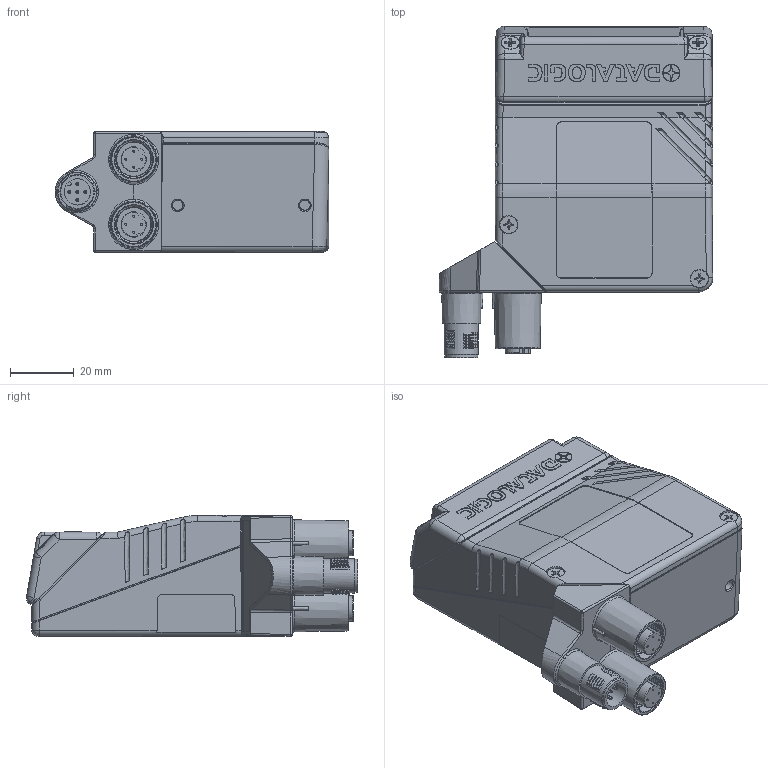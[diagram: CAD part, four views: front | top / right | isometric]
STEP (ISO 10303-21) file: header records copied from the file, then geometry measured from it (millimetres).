
FILE_DESCRIPTION(/* description */ (''),/* implementation_level */ '2;1');
FILE_NAME(/* name */ 'DSD0600.stp',/* time_stamp */ '2014-05-19T15:33:28+02:00',/* author */ (''),/* organization */ (''),/* preprocessor_version */ 'ST-DEVELOPER v11',/* originating_system */ 'SIEMENS PLM Software NX 7.5',/* authorisation */ '');
FILE_SCHEMA (('CONFIG_CONTROL_DESIGN'));
Products named in the file (1): acar76EDtnib
Bounding box: 86.15 x 104.22 x 38.09 mm (x, y, z)
Volume: 60008.8 mm3; surface area: 62356.4 mm2
Topology: 125 solids, 127 shells, 5097 faces, 13088 edges, 8260 vertices
Faces by surface type: plane 2992, cylinder 900, bspline 672, extrusion 189, cone 154, torus 98, sphere 92
Full cylindrical faces by diameter (mm): 0.6 x16, 0.8 x10, 1 x20, 1.45 x10, 1.8 x2, 2.05 x4, 2.1 x2, 2.4 x2, 2.5 x12, 2.874 x2, 3 x2, 3.2 x8, 3.3 x4, 5.5 x2, 5.6 x2, 5.8 x2, 8 x2, 8.3 x1, 9.3 x1, 9.4 x4, 9.5 x1, 9.6 x2, 9.9 x2, 10.4 x1, 10.7 x2, 10.8 x1, 10.9 x10, 12.3 x1, 13.8 x1, 14 x2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
Entity records: 180288 total; most frequent: CARTESIAN_POINT 67047, ORIENTED_EDGE 25094, DIRECTION 20150, EDGE_CURVE 12550, VERTEX_POINT 8106, VECTOR 7222, LINE 7033, AXIS2_PLACEMENT_3D 6464
